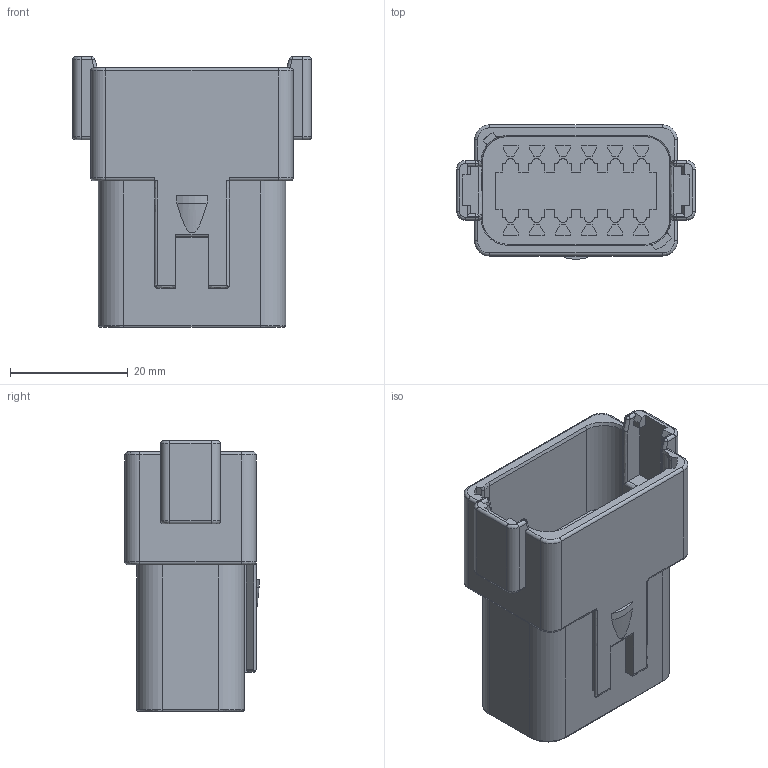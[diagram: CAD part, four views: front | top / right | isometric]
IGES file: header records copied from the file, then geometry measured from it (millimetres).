
Start section:  PTC IGES file: c-dt04-12pd-c015-99-3d.igs
Global section: file name: c-dt04-12pd-c015-99-3d.igs; native system: Pro/ENGINEER by Parametric Technology Corporation; preprocessor: 2011490; author: workeradm; organization: Unknown; units: millimetre
Bounding box: 40.56 x 22.76 x 45.92 mm (x, y, z)
Surface area: 8561.2 mm2 (no closed solid volume)
Topology: 0 solids, 0 shells, 614 faces, 3126 edges, 3126 vertices
Faces by surface type: bspline 362, revolution 252
